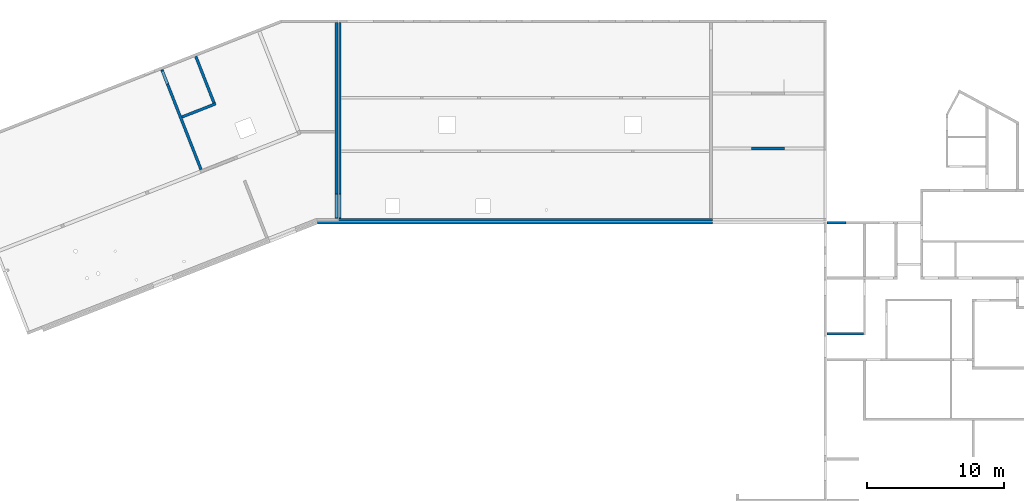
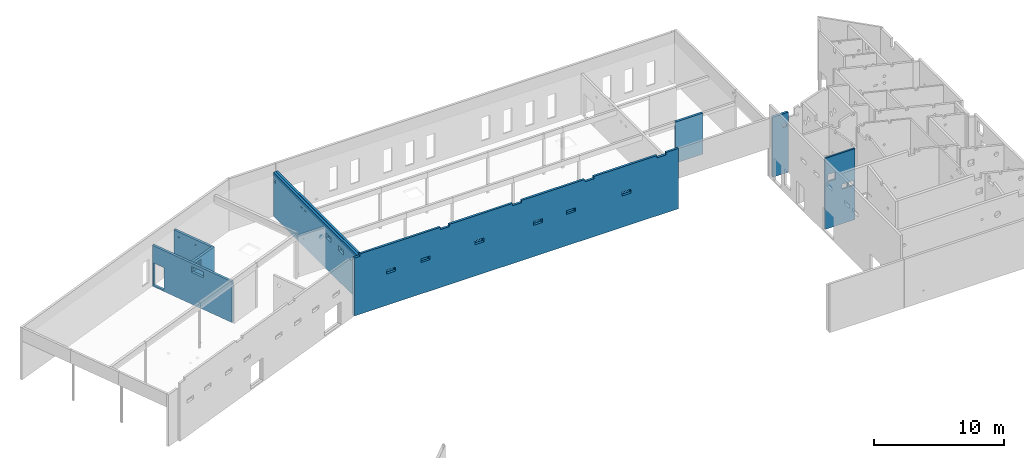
# One storey, part 4 of 13: 10 walls, 44 openings.
"""IFC2X3 building model written with IfcOpenShell, lengths in metres."""

from ifc_helpers import new_model, entity, si_unit, converted_unit, direction, frame, frame_2d, origin, origin_with_axes, place, context, subcontext, project, spatial, polyline, rectangle, outline, extrude, clip, bounded_halfspace, material, layer, layer_set, layer_usage, element, save


model = new_model("IFC2X3")

# Units and contexts
model_context = context("Model", 3, precision=1e-05, world=origin(), true_north=direction((-0.407059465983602, -0.913401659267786)))
body_context = subcontext(model_context, "Body", "Model", "MODEL_VIEW")
ifc_project = project(units=[si_unit("LENGTHUNIT", "METRE"), si_unit("AREAUNIT", "SQUARE_METRE"), si_unit("VOLUMEUNIT", "CUBIC_METRE"), si_unit("MASSUNIT", "GRAM", prefix="KILO"), converted_unit("PLANEANGLEUNIT", "DEGREE", entity("IfcPlaneAngleMeasure", 0.0174532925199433), si_unit("PLANEANGLEUNIT", "RADIAN"), dimensions=[0, 0, 0, 0, 0, 0, 0])], contexts=[model_context])

# Site, buildings, storey
site_placement = place(None, origin())
site = spatial("IfcSite", under=ifc_project, at=site_placement, Name="Site", CompositionType="ELEMENT")
building_1_placement = place(site_placement, origin())
building_1 = spatial("IfcBuilding", under=site, at=building_1_placement, Name="Site", CompositionType="COMPLEX")
building_2_placement = place(building_1_placement, origin())
building_2 = spatial("IfcBuilding", under=building_1, at=building_2_placement, Name="Bâtiments", CompositionType="ELEMENT")
storey_placement = place(building_2_placement, frame((0.0, 0.0, -0.14)))
storey = spatial("IfcBuildingStorey", under=building_2, at=storey_placement, Name="RDC", CompositionType="ELEMENT", Elevation=-0.14)

# Wall
ifc_material_1 = material(Name="Béton")
ifc_layer_1 = layer(ifc_material_1, 0.200000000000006)
ifc_layer_set_1 = layer_set([ifc_layer_1])
ifc_layer_usage_1 = layer_usage(ifc_layer_set_1, "AXIS2", "POSITIVE", -0.100000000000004)
wall_1_placement = place(storey_placement, frame((57.9607578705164, -0.0482709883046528, 0.0), z_axis=(0.0, 0.0, 1.0), x_axis=(1.0, 4.68205051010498e-10, 0.0)))
element("IfcWallStandardCase", 1, at=wall_1_placement, inside=storey, material=ifc_layer_usage_1, context=body_context, shape_type="SweptSolid", body=[
    extrude(rectangle(XDim=2.4036081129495, YDim=0.200000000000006, at=frame_2d((1.20180405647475, 0.100000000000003), x_axis=(1.0, 0.0))), origin_with_axes(), (0.0, 0.0, 1.0), 3.84),
])

# Wall, openings
ifc_material_2 = material(Name="Béton")
ifc_layer_2 = layer(ifc_material_2, 0.200000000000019)
ifc_layer_set_2 = layer_set([ifc_layer_2])
ifc_layer_usage_2 = layer_usage(ifc_layer_set_2, "AXIS2", "POSITIVE", 0.0)
wall_2_placement = place(storey_placement, frame((18.0030215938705, -1.4652256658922, 0.0), z_axis=(0.0, 0.0, 1.0), x_axis=(-0.365246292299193, 0.930910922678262, 0.0)))
wall_2 = element("IfcWallStandardCase", 2, at=wall_2_placement, inside=storey, material=ifc_layer_usage_2, context=body_context, shape_type="Clipping", body=[
    clip(extrude(rectangle(XDim=7.83953146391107, YDim=0.200000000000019, at=frame_2d((3.91976573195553, 0.100000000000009), x_axis=(1.0, 0.0))), origin_with_axes(), (0.0, 0.0, 1.0), 3.84), bounded_halfspace(frame((0.0126397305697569, 0.100000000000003, 3.64), z_axis=(0.0, 0.0, -1.0), x_axis=(1.0, -1.70086167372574e-13, 0.0)), True, origin_with_axes(), polyline([(-8.46658551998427e-16, 3.32189567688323e-16), (0.0252794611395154, -3.96838117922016e-15), (0.0252794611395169, 0.200000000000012), (1.27897692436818e-16, 0.200000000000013), (-8.46658551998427e-16, 3.32189567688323e-16)]))),
])
opening_1_placement = place(wall_2_placement, frame((7.73970249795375, 0.200000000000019, 0.14), z_axis=(0.0, -1.0, 0.0), x_axis=(0.0, 0.0, 1.0)))
element("IfcOpeningElement", 3, at=opening_1_placement, cuts=wall_2, Name="Baie de porte", ObjectType="Opening", context=body_context, shape_type="SweptSolid", body=[
    extrude(outline(polyline([(0.0, 1.03), (2.1, 1.03), (2.1, 0.0), (0.0, 0.0), (0.0, 1.03)])), origin_with_axes(), (0.0, 0.0, 1.0), 0.200000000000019),
])
opening_2_placement = place(wall_2_placement, frame((2.79763032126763, 6.82121026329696e-16, 2.99), z_axis=(2.27373675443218e-15, 1.0, 0.0), x_axis=(0.0, 0.0, 1.0)))
element("IfcOpeningElement", 4, at=opening_2_placement, cuts=wall_2, Name="CVC-002", ObjectType="Opening", context=body_context, shape_type="SweptSolid", body=[
    extrude(outline(polyline([(0.0, 1.2), (0.55, 1.2), (0.55, 0.0), (0.0, 0.0), (0.0, 1.2)])), origin_with_axes(), (0.0, 0.0, 1.0), 0.200000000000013),
])

# Wall, opening
ifc_material_3 = material(Name="Béton")
ifc_layer_3 = layer(ifc_material_3, 0.200000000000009)
ifc_layer_set_3 = layer_set([ifc_layer_3])
ifc_layer_usage_3 = layer_usage(ifc_layer_set_3, "AXIS2", "POSITIVE", -0.200000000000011)
wall_3_placement = place(storey_placement, frame((16.5429019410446, 2.25621206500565, 0.0), z_axis=(0.0, 0.0, 1.0), x_axis=(0.930910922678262, 0.365246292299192, 0.0)))
wall_3 = element("IfcWallStandardCase", 5, at=wall_3_placement, inside=storey, material=ifc_layer_usage_3, context=body_context, shape_type="SweptSolid", body=[
    extrude(rectangle(XDim=2.65145143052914, YDim=0.200000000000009, at=frame_2d((1.32572571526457, 0.100000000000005), x_axis=(1.0, 0.0))), origin_with_axes(), (0.0, 0.0, 1.0), 3.84),
])
opening_3_placement = place(wall_3_placement, frame((0.0, 0.0, 2.97), z_axis=(-3.12638803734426e-15, 1.0, 0.0), x_axis=(0.0, 0.0, 1.0)))
element("IfcOpeningElement", 6, at=opening_3_placement, cuts=wall_3, Name="CVC-001", ObjectType="Opening", context=body_context, shape_type="SweptSolid", body=[
    extrude(outline(polyline([(0.0, 0.949999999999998), (0.6, 0.949999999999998), (0.6, 0.0), (0.0, 0.0), (0.0, 0.949999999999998)])), origin_with_axes(), (0.0, 0.0, 1.0), 0.200000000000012),
])

# Wall, openings
ifc_material_4 = material(Name="Béton")
ifc_layer_4 = layer(ifc_material_4, 0.200000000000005)
ifc_layer_set_4 = layer_set([ifc_layer_4])
ifc_layer_usage_4 = layer_usage(ifc_layer_set_4, "AXIS2", "POSITIVE", 0.0)
wall_4_placement = place(storey_placement, frame((18.9381177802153, 3.41082705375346, 0.0), z_axis=(0.0, 0.0, 1.0), x_axis=(-0.365246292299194, 0.930910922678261, 0.0)))
wall_4 = element("IfcWallStandardCase", 7, at=wall_4_placement, inside=storey, material=ifc_layer_usage_4, context=body_context, shape_type="SweptSolid", body=[
    extrude(rectangle(XDim=3.64190114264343, YDim=0.200000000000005, at=frame_2d((1.82095057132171, 0.100000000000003), x_axis=(1.0, 0.0))), origin_with_axes(), (0.0, 0.0, 1.0), 3.84),
])
opening_4_placement = place(wall_4_placement, frame((3.21698916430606, 0.200000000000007, 3.29), z_axis=(0.0, -1.0, 0.0), x_axis=(0.0, 0.0, 1.0)))
element("IfcOpeningElement", 8, at=opening_4_placement, cuts=wall_4, Name="PB-RDC-2", ObjectType="Opening", context=body_context, shape_type="SweptSolid", body=[
    extrude(outline(polyline([(0.0, 0.150000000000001), (0.1, 0.150000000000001), (0.1, 0.0), (0.0, 0.0), (0.0, 0.150000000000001)])), origin_with_axes(), (0.0, 0.0, 1.0), 0.200000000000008),
])
opening_5_placement = place(wall_4_placement, frame((1.5682692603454, 0.200000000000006, 3.29), z_axis=(-1.13686837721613e-15, -1.0, 0.0), x_axis=(0.0, 0.0, 1.0)))
element("IfcOpeningElement", 9, at=opening_5_placement, cuts=wall_4, Name="PB-RDC-6", ObjectType="Opening", context=body_context, shape_type="SweptSolid", body=[
    extrude(outline(polyline([(0.0, 0.1), (0.1, 0.1), (0.1, 0.0), (0.0, 0.0), (0.0, 0.1)])), origin_with_axes(), (0.0, 0.0, 1.0), 0.200000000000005),
])

ifc_material_5 = material(Name="Béton")
ifc_layer_5 = layer(ifc_material_5, 0.200000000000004)
ifc_layer_set_5 = layer_set([ifc_layer_5])
ifc_layer_usage_5 = layer_usage(ifc_layer_set_5, "AXIS2", "POSITIVE", -0.2)
wall_5_placement = place(storey_placement, frame((27.662647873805, 9.21038988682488, 0.02), z_axis=(0.0, 0.0, 1.0), x_axis=(-2.3292249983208e-06, -0.999999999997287, 0.0)))
wall_5 = element("IfcWallStandardCase", 10, at=wall_5_placement, inside=storey, material=ifc_layer_usage_5, context=body_context, shape_type="SweptSolid", body=[
    extrude(outline(polyline([(-14.2292827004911, -1.00481250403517e-12), (-4.31393487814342e-07, -1.00481249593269e-12), (-4.65844999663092e-07, 0.199999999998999), (-14.2292827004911, 0.199999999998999), (-14.2292827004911, -1.00481250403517e-12)])), frame((14.2292827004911, 1.00481250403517e-12, 0.0), z_axis=(0.0, 0.0, 1.0), x_axis=(1.0, 0.0, 0.0)), (0.0, 0.0, 1.0), 4.12),
])
opening_6_placement = place(wall_5_placement, frame((4.58088513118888, -2.30205438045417e-15, 0.67), z_axis=(-9.09494701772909e-15, 1.0, 0.0), x_axis=(0.0, 0.0, 1.0)))
element("IfcOpeningElement", 11, at=opening_6_placement, cuts=wall_5, Name="PB-RDC-7-8", ObjectType="Opening", context=body_context, shape_type="SweptSolid", body=[
    extrude(outline(polyline([(0.0, 0.1), (0.1, 0.1), (0.1, 0.0), (0.0, 0.0), (0.0, 0.1)])), origin_with_axes(), (0.0, 0.0, 1.0), 0.200000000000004),
])
opening_7_placement = place(wall_5_placement, frame((0.02204199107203, -1.01861733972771e-15, 3.24), z_axis=(-8.50874926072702e-15, 1.0, 0.0), x_axis=(0.0, 0.0, 1.0)))
element("IfcOpeningElement", 12, at=opening_7_placement, cuts=wall_5, Name="PB-RDC-9-42", ObjectType="Opening", context=body_context, shape_type="SweptSolid", body=[
    extrude(outline(polyline([(0.0, 0.3), (0.3, 0.3), (0.3, 0.0), (0.0, 0.0), (0.0, 0.3)])), origin_with_axes(), (0.0, 0.0, 1.0), 0.200000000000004),
])
opening_8_placement = place(wall_5_placement, frame((14.2004874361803, 0.200000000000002, 0.12), z_axis=(0.0, -1.0, 0.0), x_axis=(0.0, 0.0, 1.0)))
element("IfcOpeningElement", 13, at=opening_8_placement, cuts=wall_5, Name="Baie de porte", ObjectType="Opening", context=body_context, shape_type="SweptSolid", body=[
    extrude(outline(polyline([(0.0, 1.75), (2.1, 1.75), (2.1, 0.0), (0.0, 0.0), (0.0, 1.75)])), origin_with_axes(), (0.0, 0.0, 1.0), 0.200000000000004),
])
opening_9_placement = place(wall_5_placement, frame((14.1004874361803, 8.15583711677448e-16, 3.47), z_axis=(-9.09494701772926e-15, 1.0, 0.0), x_axis=(0.0, 0.0, 1.0)))
element("IfcOpeningElement", 14, at=opening_9_placement, cuts=wall_5, Name="Percement dans mur", ObjectType="Opening", context=body_context, shape_type="SweptSolid", body=[
    extrude(outline(polyline([(0.0, 0.1), (0.1, 0.1), (0.1, 0.0), (0.0, 0.0), (0.0, 0.1)])), origin_with_axes(), (0.0, 0.0, 1.0), 0.2),
])
opening_10_placement = place(wall_5_placement, frame((10.0075514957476, -2.27760518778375e-15, 2.87), z_axis=(0.0, 1.0, 0.0), x_axis=(0.0, 0.0, 1.0)))
element("IfcOpeningElement", 15, at=opening_10_placement, cuts=wall_5, Name="Niche dans mur", ObjectType="Opening", context=body_context, shape_type="SweptSolid", body=[
    extrude(outline(polyline([(0.0, 0.75), (0.5, 0.75), (0.5, 0.0), (0.0, 0.0), (0.0, 0.75)])), origin_with_axes(), (0.0, 0.0, 1.0), 0.200000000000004),
])
opening_11_placement = place(wall_5_placement, frame((8.07758032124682, -8.90152535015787e-16, 2.89), z_axis=(0.0, 1.0, 0.0), x_axis=(0.0, 0.0, 1.0)))
element("IfcOpeningElement", 16, at=opening_11_placement, cuts=wall_5, Name="Niche dans mur", ObjectType="Opening", context=body_context, shape_type="SweptSolid", body=[
    extrude(outline(polyline([(0.0, 0.8), (0.45, 0.8), (0.45, 0.0), (0.0, 0.0), (0.0, 0.8)])), origin_with_axes(), (0.0, 0.0, 1.0), 0.200000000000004),
])
opening_12_placement = place(wall_5_placement, frame((4.14990509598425, -1.16910474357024e-15, 3.42), z_axis=(-4.54747350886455e-15, 1.0, 0.0), x_axis=(0.0, 0.0, 1.0)))
element("IfcOpeningElement", 17, at=opening_12_placement, cuts=wall_5, Name="Niche dans mur", ObjectType="Opening", context=body_context, shape_type="SweptSolid", body=[
    extrude(outline(polyline([(0.0, 0.35), (0.07, 0.35), (0.07, 0.0), (0.0, 0.0), (0.0, 0.35)])), origin_with_axes(), (0.0, 0.0, 1.0), 0.200000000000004),
])
opening_13_placement = place(wall_5_placement, frame((4.75416760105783, -1.52922639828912e-15, 3.42), z_axis=(4.54747350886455e-15, 1.0, 0.0), x_axis=(0.0, 0.0, 1.0)))
element("IfcOpeningElement", 18, at=opening_13_placement, cuts=wall_5, Name="Niche dans mur", ObjectType="Opening", context=body_context, shape_type="SweptSolid", body=[
    extrude(outline(polyline([(0.0, 0.25), (0.07, 0.25), (0.07, 0.0), (0.0, 0.0), (0.0, 0.25)])), origin_with_axes(), (0.0, 0.0, 1.0), 0.200000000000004),
])

ifc_material_6 = material(Name="Béton")
ifc_layer_6 = layer(ifc_material_6, 0.200000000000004)
ifc_layer_set_6 = layer_set([ifc_layer_6])
ifc_layer_usage_6 = layer_usage(ifc_layer_set_6, "AXIS2", "POSITIVE", -0.2)
wall_6_placement = place(storey_placement, frame((27.8826478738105, 9.2103920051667, 0.02), z_axis=(0.0, 0.0, 1.0), x_axis=(-2.3292249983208e-06, -0.999999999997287, 0.0)))
wall_6 = element("IfcWallStandardCase", 19, at=wall_6_placement, inside=storey, material=ifc_layer_usage_6, context=body_context, shape_type="Clipping", body=[
    clip(extrude(outline(polyline([(-14.2292827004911, -1.00481250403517e-12), (-4.31393487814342e-07, -1.00481249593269e-12), (-4.65844999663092e-07, 0.199999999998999), (-14.2292827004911, 0.199999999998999), (-14.2292827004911, -1.00481250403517e-12)])), frame((14.2292827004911, 1.00481250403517e-12, 0.0), z_axis=(0.0, 0.0, 1.0), x_axis=(1.0, 0.0, 0.0)), (0.0, 0.0, 1.0), 4.12), bounded_halfspace(frame((14.2288348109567, 0.0999999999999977, 0.02), z_axis=(0.0, 0.0, 1.0), x_axis=(-1.0, 9.67578660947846e-13, 0.0)), True, origin_with_axes(), polyline([(14.2292822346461, 0.2), (14.2283856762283, 0.200000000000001), (14.2283890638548, -3.21177806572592e-15), (14.2292822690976, -3.63797186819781e-15), (14.2292822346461, 0.2)]))),
])
opening_14_placement = place(wall_6_placement, frame((4.14990721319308, -2.81261472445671e-15, 3.42), z_axis=(-4.54747350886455e-15, 1.0, 0.0), x_axis=(0.0, 0.0, 1.0)))
element("IfcOpeningElement", 20, at=opening_14_placement, cuts=wall_6, Name="EL-015-17", ObjectType="Opening", context=body_context, shape_type="SweptSolid", body=[
    extrude(outline(polyline([(0.0, 0.35), (0.07, 0.35), (0.07, 0.0), (0.0, 0.0), (0.0, 0.35)])), origin_with_axes(), (0.0, 0.0, 1.0), 0.200000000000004),
])
opening_15_placement = place(wall_6_placement, frame((4.75416971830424, 5.52771370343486e-16, 3.42), z_axis=(4.54747350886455e-15, 1.0, 0.0), x_axis=(0.0, 0.0, 1.0)))
element("IfcOpeningElement", 21, at=opening_15_placement, cuts=wall_6, Name="EL-010-12", ObjectType="Opening", context=body_context, shape_type="SweptSolid", body=[
    extrude(outline(polyline([(0.0, 0.25), (0.07, 0.25), (0.07, 0.0), (0.0, 0.0), (0.0, 0.25)])), origin_with_axes(), (0.0, 0.0, 1.0), 0.200000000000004),
])
opening_16_placement = place(wall_6_placement, frame((4.68088701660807, 0.200000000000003, 0.67), z_axis=(9.09494701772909e-15, -1.0, 0.0), x_axis=(0.0, 0.0, 1.0)))
element("IfcOpeningElement", 22, at=opening_16_placement, cuts=wall_6, Name="Percement dans mur", ObjectType="Opening", context=body_context, shape_type="SweptSolid", body=[
    extrude(outline(polyline([(0.0, 0.100000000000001), (0.1, 0.100000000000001), (0.1, 0.0), (0.0, 0.0), (0.0, 0.100000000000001)])), origin_with_axes(), (0.0, 0.0, 1.0), 0.200000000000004),
])
opening_17_placement = place(wall_6_placement, frame((0.0220441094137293, -2.34387162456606e-17, 3.24), z_axis=(5.68434188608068e-16, 1.0, 0.0), x_axis=(0.0, 0.0, 1.0)))
element("IfcOpeningElement", 23, at=opening_17_placement, cuts=wall_6, Name="PB-RDC-9-42", ObjectType="Opening", context=body_context, shape_type="SweptSolid", body=[
    extrude(outline(polyline([(0.0, 0.299999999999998), (0.3, 0.299999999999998), (0.3, 0.0), (0.0, 0.0), (0.0, 0.299999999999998)])), origin_with_axes(), (0.0, 0.0, 1.0), 0.200000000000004),
])
opening_18_placement = place(wall_6_placement, frame((14.2005754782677, 0.200000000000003, 0.12), z_axis=(0.0, -1.0, 0.0), x_axis=(0.0, 0.0, 1.0)))
element("IfcOpeningElement", 24, at=opening_18_placement, cuts=wall_6, Name="Baie de porte", ObjectType="Opening", context=body_context, shape_type="SweptSolid", body=[
    extrude(outline(polyline([(0.0, 1.75), (2.1, 1.75), (2.1, 0.0), (0.0, 0.0), (0.0, 1.75)])), origin_with_axes(), (0.0, 0.0, 1.0), 0.200000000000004),
])
opening_19_placement = place(wall_6_placement, frame((14.1004939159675, -2.76098588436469e-16, 3.47), z_axis=(-9.09494701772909e-15, 1.0, 0.0), x_axis=(0.0, 0.0, 1.0)))
element("IfcOpeningElement", 25, at=opening_19_placement, cuts=wall_6, Name="PB-RDC-18-19", ObjectType="Opening", context=body_context, shape_type="SweptSolid", body=[
    extrude(outline(polyline([(0.0, 0.1), (0.1, 0.1), (0.1, 0.0), (0.0, 0.0), (0.0, 0.1)])), origin_with_axes(), (0.0, 0.0, 1.0), 0.200000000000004),
])
opening_20_placement = place(wall_6_placement, frame((10.7560592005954, 0.200000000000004, 2.87), z_axis=(9.09494701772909e-15, -1.0, 0.0), x_axis=(0.0, 0.0, 1.0)))
element("IfcOpeningElement", 26, at=opening_20_placement, cuts=wall_6, Name="CVC-051", ObjectType="Opening", context=body_context, shape_type="SweptSolid", body=[
    extrude(outline(polyline([(0.0, 0.75), (0.5, 0.75), (0.5, 0.0), (0.0, 0.0), (0.0, 0.75)])), origin_with_axes(), (0.0, 0.0, 1.0), 0.200000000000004),
])
opening_21_placement = place(wall_6_placement, frame((8.07692470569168, 9.53587903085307e-16, 2.89), z_axis=(0.0, 1.0, 0.0), x_axis=(0.0, 0.0, 1.0)))
element("IfcOpeningElement", 27, at=opening_21_placement, cuts=wall_6, Name="CVC-050", ObjectType="Opening", context=body_context, shape_type="SweptSolid", body=[
    extrude(outline(polyline([(0.0, 0.8), (0.45, 0.8), (0.45, 0.0), (0.0, 0.0), (0.0, 0.8)])), origin_with_axes(), (0.0, 0.0, 1.0), 0.200000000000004),
])

ifc_material_7 = material(Name="Mur_Maconnerie")
ifc_layer_7 = layer(ifc_material_7, 0.150000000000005)
ifc_layer_set_7 = layer_set([ifc_layer_7])
ifc_layer_usage_7 = layer_usage(ifc_layer_set_7, "AXIS2", "POSITIVE", -0.15)
wall_7_placement = place(storey_placement, frame((66.0977270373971, -13.3433473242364, 0.02), z_axis=(0.0, 0.0, 1.0), x_axis=(-0.999999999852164, -1.71951320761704e-05, 0.0)))
wall_7 = element("IfcWallStandardCase", 28, at=wall_7_placement, inside=storey, material=ifc_layer_usage_7, context=body_context, shape_type="SweptSolid", body=[
    extrude(outline(polyline([(-2.66427639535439, -0.150000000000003), (-2.57926981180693e-06, -0.150000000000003), (-7.02275428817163e-11, 1.20757187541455e-15), (-2.66427381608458, 1.81898940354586e-15), (-2.66427639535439, -0.150000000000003)])), frame((2.66427639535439, 0.150000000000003, 0.0), z_axis=(0.0, 0.0, 1.0), x_axis=(1.0, 0.0, 0.0)), (0.0, 0.0, 1.0), 6.64739507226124),
])
opening_22_placement = place(wall_7_placement, frame((1.75025335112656, -1.88141169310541e-16, 4.39), z_axis=(-8.91304807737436e-13, 1.0, 0.0), x_axis=(0.0, 0.0, 1.0)))
element("IfcOpeningElement", 29, at=opening_22_placement, cuts=wall_7, Name="CVC-096", ObjectType="Opening", context=body_context, shape_type="SweptSolid", body=[
    extrude(outline(polyline([(0.0, 0.66), (0.66, 0.66), (0.66, 0.0), (0.0, 0.0), (0.0, 0.66)])), origin_with_axes(), (0.0, 0.0, 1.0), 0.150000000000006),
])
opening_23_placement = place(wall_7_placement, frame((0.524723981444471, 0.150000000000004, 3.24), z_axis=(8.92062719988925e-13, -1.0, 0.0), x_axis=(0.0, 0.0, 1.0)))
element("IfcOpeningElement", 30, at=opening_23_placement, cuts=wall_7, Name="CVC-094", ObjectType="Opening", context=body_context, shape_type="SweptSolid", body=[
    extrude(outline(polyline([(0.0, 0.459999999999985), (0.46, 0.459999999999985), (0.46, 0.0), (0.0, 0.0), (0.0, 0.459999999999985)])), origin_with_axes(), (0.0, 0.0, 1.0), 0.150000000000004),
])
opening_24_placement = place(wall_7_placement, frame((1.15782293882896, 0.150000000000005, 3.24), z_axis=(8.92820632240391e-13, -1.0, 0.0), x_axis=(0.0, 0.0, 1.0)))
element("IfcOpeningElement", 31, at=opening_24_placement, cuts=wall_7, Name="CVC-095", ObjectType="Opening", context=body_context, shape_type="SweptSolid", body=[
    extrude(outline(polyline([(0.0, 0.46), (0.46, 0.46), (0.46, 0.0), (0.0, 0.0), (0.0, 0.46)])), origin_with_axes(), (0.0, 0.0, 1.0), 0.150000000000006),
])

# Wall, opening
ifc_material_8 = material(Name="Béton")
ifc_layer_8 = layer(ifc_material_8, 0.200000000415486)
ifc_layer_set_8 = layer_set([ifc_layer_8])
ifc_layer_usage_8 = layer_usage(ifc_layer_set_8, "AXIS2", "POSITIVE", -0.2)
wall_8_placement = place(storey_placement, frame((63.4333925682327, -5.43896696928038, 0.02), z_axis=(0.0, 0.0, 1.0), x_axis=(1.0, -6.43212719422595e-16, 0.0)))
wall_8 = element("IfcWallStandardCase", 32, at=wall_8_placement, inside=storey, material=ifc_layer_usage_8, context=body_context, shape_type="SweptSolid", body=[
    extrude(rectangle(XDim=1.41398743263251, YDim=0.200000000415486, at=frame_2d((0.706993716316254, 0.100000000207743), x_axis=(1.0, 0.0))), origin_with_axes(), (0.0, 0.0, 1.0), 5.62),
])
opening_25_placement = place(wall_8_placement, frame((1.26867913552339, 0.20000000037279, 4.33), z_axis=(1.1368683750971e-15, -1.0, 0.0), x_axis=(0.0, 0.0, 1.0)))
element("IfcOpeningElement", 33, at=opening_25_placement, cuts=wall_8, Name="CVC-128", ObjectType="Opening", context=body_context, shape_type="SweptSolid", body=[
    extrude(outline(polyline([(0.0, 0.349999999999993), (0.25, 0.349999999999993), (0.25, 0.0), (0.0, 0.0), (0.0, 0.349999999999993)])), origin_with_axes(), (0.0, 0.0, 1.0), 0.200000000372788),
])

# Wall, openings
ifc_material_9 = material(Name="Béton")
ifc_layer_9 = layer(ifc_material_9, 0.200000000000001)
ifc_layer_set_9 = layer_set([ifc_layer_9])
ifc_layer_usage_9 = layer_usage(ifc_layer_set_9, "AXIS2", "POSITIVE", -0.2)
wall_9_placement = place(storey_placement, frame((55.1124814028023, -5.01895159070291, 0.0200000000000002), z_axis=(0.0, 0.0, 1.0), x_axis=(-0.999999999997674, 2.15696744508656e-06, 0.0)))
wall_9 = element("IfcWallStandardCase", 34, at=wall_9_placement, inside=storey, material=ifc_layer_usage_9, context=body_context, shape_type="SweptSolid", body=[
    extrude(outline(polyline([(-27.229803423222, -0.200058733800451), (1.26353403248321e-10, -0.200058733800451), (1.26686895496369e-10, -5.87338004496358e-05), (-27.2298038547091, -5.87338004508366e-05), (-27.229803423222, -0.200058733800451)])), frame((27.229803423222, 0.200058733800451, 0.0), z_axis=(0.0, 0.0, 1.0), x_axis=(1.0, 0.0, 0.0)), (0.0, 0.0, 1.0), 4.07),
])
opening_26_placement = place(wall_9_placement, frame((21.4342880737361, -7.8610729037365e-17, 3.47), z_axis=(-5.33327693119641e-11, 1.0, 0.0), x_axis=(0.0, 0.0, 1.0)))
element("IfcOpeningElement", 35, at=opening_26_placement, cuts=wall_9, Name="PB-RDC-21-23", ObjectType="Opening", context=body_context, shape_type="SweptSolid", body=[
    extrude(outline(polyline([(0.0, 0.1), (0.1, 0.1), (0.1, 0.0), (0.0, 0.0), (0.0, 0.1)])), origin_with_axes(), (0.0, 0.0, 1.0), 0.200000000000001),
])
opening_27_placement = place(wall_9_placement, frame((9.12664536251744, -6.52328885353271e-16, 2.92), z_axis=(-5.33236743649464e-11, 1.0, 0.0), x_axis=(0.0, 0.0, 1.0)))
element("IfcOpeningElement", 36, at=opening_27_placement, cuts=wall_9, Name="Niche dans mur", ObjectType="Opening", context=body_context, shape_type="SweptSolid", body=[
    extrude(outline(polyline([(0.0, 0.799999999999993), (0.35, 0.799999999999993), (0.35, 0.0), (0.0, 0.0), (0.0, 0.799999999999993)])), origin_with_axes(), (0.0, 0.0, 1.0), 0.200000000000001),
])
opening_28_placement = place(wall_9_placement, frame((12.0766453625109, -2.20393148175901e-16, 2.92), z_axis=(-5.33236743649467e-11, 1.0, 0.0), x_axis=(0.0, 0.0, 1.0)))
element("IfcOpeningElement", 37, at=opening_28_placement, cuts=wall_9, Name="Niche dans mur", ObjectType="Opening", context=body_context, shape_type="SweptSolid", body=[
    extrude(outline(polyline([(0.0, 0.8), (0.35, 0.8), (0.35, 0.0), (0.0, 0.0), (0.0, 0.8)])), origin_with_axes(), (0.0, 0.0, 1.0), 0.2),
])
opening_29_placement = place(wall_9_placement, frame((17.2398984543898, -5.09731146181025e-16, 2.92), z_axis=(-5.33327693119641e-11, 1.0, 0.0), x_axis=(0.0, 0.0, 1.0)))
element("IfcOpeningElement", 38, at=opening_29_placement, cuts=wall_9, Name="Niche dans mur", ObjectType="Opening", context=body_context, shape_type="SweptSolid", body=[
    extrude(outline(polyline([(0.0, 0.799999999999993), (0.35, 0.799999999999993), (0.35, 0.0), (0.0, 0.0), (0.0, 0.799999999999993)])), origin_with_axes(), (0.0, 0.0, 1.0), 0.200000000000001),
])
opening_30_placement = place(wall_9_placement, frame((25.0594182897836, 1.33171251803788e-16, 2.92), z_axis=(-5.33327693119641e-11, 1.0, 0.0), x_axis=(0.0, 0.0, 1.0)))
element("IfcOpeningElement", 39, at=opening_30_placement, cuts=wall_9, Name="Niche dans mur", ObjectType="Opening", context=body_context, shape_type="SweptSolid", body=[
    extrude(outline(polyline([(0.0, 0.8), (0.35, 0.8), (0.35, 0.0), (0.0, 0.0), (0.0, 0.8)])), origin_with_axes(), (0.0, 0.0, 1.0), 0.200000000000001),
])
opening_31_placement = place(wall_9_placement, frame((22.0214720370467, 2.13232209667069e-17, 2.92), z_axis=(-5.33327693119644e-11, 1.0, 0.0), x_axis=(0.0, 0.0, 1.0)))
element("IfcOpeningElement", 40, at=opening_31_placement, cuts=wall_9, Name="Niche dans mur", ObjectType="Opening", context=body_context, shape_type="SweptSolid", body=[
    extrude(outline(polyline([(0.0, 0.800000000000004), (0.35, 0.800000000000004), (0.35, 0.0), (0.0, 0.0), (0.0, 0.800000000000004)])), origin_with_axes(), (0.0, 0.0, 1.0), 0.2),
])
opening_32_placement = place(wall_9_placement, frame((4.20208627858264, -4.18658163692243e-16, 2.92), z_axis=(-5.33236743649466e-11, 1.0, 0.0), x_axis=(0.0, 0.0, 1.0)))
element("IfcOpeningElement", 41, at=opening_32_placement, cuts=wall_9, Name="Niche dans mur", ObjectType="Opening", context=body_context, shape_type="SweptSolid", body=[
    extrude(outline(polyline([(0.0, 0.799999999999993), (0.35, 0.799999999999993), (0.35, 0.0), (0.0, 0.0), (0.0, 0.799999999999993)])), origin_with_axes(), (0.0, 0.0, 1.0), 0.2),
])

ifc_material_10 = material(Name="Béton")
ifc_layer_10 = layer(ifc_material_10, 0.19999999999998)
ifc_layer_set_10 = layer_set([ifc_layer_10])
ifc_layer_usage_10 = layer_usage(ifc_layer_set_10, "AXIS2", "POSITIVE", -0.19999999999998)
wall_10_placement = place(storey_placement, frame((26.3858868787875, -5.43894658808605, -0.02)))
wall_10 = element("IfcWallStandardCase", 42, at=wall_10_placement, inside=storey, material=ifc_layer_usage_10, context=body_context, shape_type="Clipping", body=[
    clip(clip(clip(extrude(outline(polyline([(16.6874691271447, 0.0), (18.8374691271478, 0.0), (28.7644956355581, 0.0), (28.7644956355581, 0.19999999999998), (0.0, 0.19999999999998), (0.0378315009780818, 0.0), (16.6874691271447, 0.0)])), frame((-0.0378315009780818, 0.0, 0.0), z_axis=(0.0, 0.0, 1.0), x_axis=(1.0, 0.0, 0.0)), (0.0, 0.0, 1.0), 5.66), bounded_halfspace(frame((-0.0183585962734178, 0.09999999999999, 0.02), z_axis=(0.0, 0.0, 1.0), x_axis=(0.185861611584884, -0.982575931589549, 0.0)), True, origin_with_axes(), polyline([(-0.0378315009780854, 0.19999999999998), (0.0, 0.0), (0.0012782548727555, 0.0), (-0.0368811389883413, 0.19999999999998), (-0.0378315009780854, 0.19999999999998)]))), bounded_halfspace(frame((14.3594313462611, 0.09999999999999, 0.02), z_axis=(0.0, 0.0, 1.0), x_axis=(1.0, 0.0, 0.0)), True, origin_with_axes(), polyline([(0.0112782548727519, 0.0), (28.72666413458, 0.0), (28.72666413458, 0.19999999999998), (-0.0268811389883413, 0.19999999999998), (0.0112782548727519, 0.0)]))), bounded_halfspace(frame((-0.0128014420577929, 0.09999999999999, 5.64), z_axis=(0.0, 0.0, -1.0), x_axis=(-0.187416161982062, 0.9822806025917, 0.0)), True, origin_with_axes(), polyline([(0.0112782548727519, 0.0), (-0.0268811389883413, 0.19999999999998), (-0.0368811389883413, 0.19999999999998), (0.0012782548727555, 0.0), (0.0112782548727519, 0.0)]))),
])
opening_33_placement = place(wall_10_placement, frame((24.5242052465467, 0.19999999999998, 2.96), z_axis=(0.0, -1.0, 0.0), x_axis=(0.0, 0.0, 1.0)))
element("IfcOpeningElement", 43, at=opening_33_placement, cuts=wall_10, Name="CVC-058", ObjectType="Opening", context=body_context, shape_type="SweptSolid", body=[
    extrude(outline(polyline([(0.0, 0.8), (0.35, 0.8), (0.35, 0.0), (0.0, 0.0), (0.0, 0.8)])), origin_with_axes(), (0.0, 0.0, 1.0), 0.19999999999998),
])
opening_34_placement = place(wall_10_placement, frame((19.5996376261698, 0.19999999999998, 2.96), z_axis=(0.0, -1.0, 0.0), x_axis=(0.0, 0.0, 1.0)))
element("IfcOpeningElement", 44, at=opening_34_placement, cuts=wall_10, Name="CVC-059", ObjectType="Opening", context=body_context, shape_type="SweptSolid", body=[
    extrude(outline(polyline([(0.0, 0.8), (0.35, 0.8), (0.35, 0.0), (0.0, 0.0), (0.0, 0.8)])), origin_with_axes(), (0.0, 0.0, 1.0), 0.19999999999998),
])
opening_35_placement = place(wall_10_placement, frame((2.86686469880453, 0.0, 2.96), z_axis=(0.0, 1.0, 0.0), x_axis=(0.0, 0.0, 1.0)))
element("IfcOpeningElement", 45, at=opening_35_placement, cuts=wall_10, Name="CVC-053", ObjectType="Opening", context=body_context, shape_type="SweptSolid", body=[
    extrude(outline(polyline([(0.0, 0.8), (0.35, 0.8), (0.35, 0.0), (0.0, 0.0), (0.0, 0.8)])), origin_with_axes(), (0.0, 0.0, 1.0), 0.19999999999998),
])
opening_36_placement = place(wall_10_placement, frame((6.70481095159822, 0.19999999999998, 2.96), z_axis=(0.0, -1.0, 0.0), x_axis=(0.0, 0.0, 1.0)))
element("IfcOpeningElement", 46, at=opening_36_placement, cuts=wall_10, Name="CVC-052", ObjectType="Opening", context=body_context, shape_type="SweptSolid", body=[
    extrude(outline(polyline([(0.0, 0.8), (0.35, 0.8), (0.35, 0.0), (0.0, 0.0), (0.0, 0.8)])), origin_with_axes(), (0.0, 0.0, 1.0), 0.19999999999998),
])
opening_37_placement = place(wall_10_placement, frame((11.4863845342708, 0.19999999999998, 2.96), z_axis=(0.0, -1.0, 0.0), x_axis=(0.0, 0.0, 1.0)))
element("IfcOpeningElement", 47, at=opening_37_placement, cuts=wall_10, Name="CVC-061", ObjectType="Opening", context=body_context, shape_type="SweptSolid", body=[
    extrude(outline(polyline([(0.0, 0.8), (0.35, 0.8), (0.35, 0.0), (0.0, 0.0), (0.0, 0.8)])), origin_with_axes(), (0.0, 0.0, 1.0), 0.19999999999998),
])
opening_38_placement = place(wall_10_placement, frame((16.6496376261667, 0.19999999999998, 2.96), z_axis=(0.0, -1.0, 0.0), x_axis=(0.0, 0.0, 1.0)))
element("IfcOpeningElement", 48, at=opening_38_placement, cuts=wall_10, Name="CVC-060", ObjectType="Opening", context=body_context, shape_type="SweptSolid", body=[
    extrude(outline(polyline([(0.0, 0.8), (0.35, 0.8), (0.35, 0.0), (0.0, 0.0), (0.0, 0.8)])), origin_with_axes(), (0.0, 0.0, 1.0), 0.19999999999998),
])
opening_39_placement = place(wall_10_placement, frame((27.6190840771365, 0.19999999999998, 5.45), z_axis=(0.0, -1.0, 0.0), x_axis=(0.0, 0.0, 1.0)))
element("IfcOpeningElement", 49, at=opening_39_placement, cuts=wall_10, Name="Percement dans mur", ObjectType="Opening", context=body_context, shape_type="SweptSolid", body=[
    extrude(outline(polyline([(0.0, 0.8), (0.21, 0.8), (0.21, 0.0), (0.0, 0.0), (0.0, 0.8)])), origin_with_axes(), (0.0, 0.0, 1.0), 0.19999999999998),
])
opening_40_placement = place(wall_10_placement, frame((21.2168675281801, 0.19999999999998, 5.45), z_axis=(0.0, -1.0, 0.0), x_axis=(0.0, 0.0, 1.0)))
element("IfcOpeningElement", 50, at=opening_40_placement, cuts=wall_10, Name="Percement dans mur", ObjectType="Opening", context=body_context, shape_type="SweptSolid", body=[
    extrude(outline(polyline([(0.0, 0.8), (0.21, 0.8), (0.21, 0.0), (0.0, 0.0), (0.0, 0.8)])), origin_with_axes(), (0.0, 0.0, 1.0), 0.19999999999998),
])
opening_41_placement = place(wall_10_placement, frame((14.8213658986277, 0.19999999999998, 5.45), z_axis=(0.0, -1.0, 0.0), x_axis=(0.0, 0.0, 1.0)))
element("IfcOpeningElement", 51, at=opening_41_placement, cuts=wall_10, Name="Percement dans mur", ObjectType="Opening", context=body_context, shape_type="SweptSolid", body=[
    extrude(outline(polyline([(0.0, 0.8), (0.21, 0.8), (0.21, 0.0), (0.0, 0.0), (0.0, 0.8)])), origin_with_axes(), (0.0, 0.0, 1.0), 0.19999999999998),
])
opening_42_placement = place(wall_10_placement, frame((8.42243017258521, 0.19999999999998, 5.45), z_axis=(0.0, -1.0, 0.0), x_axis=(0.0, 0.0, 1.0)))
element("IfcOpeningElement", 52, at=opening_42_placement, cuts=wall_10, Name="Percement dans mur", ObjectType="Opening", context=body_context, shape_type="SweptSolid", body=[
    extrude(outline(polyline([(0.0, 0.8), (0.21, 0.8), (0.21, 0.0), (0.0, 0.0), (0.0, 0.8)])), origin_with_axes(), (0.0, 0.0, 1.0), 0.19999999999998),
])
opening_43_placement = place(wall_10_placement, frame((3.66686469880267, 0.199998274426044, 2.96), z_axis=(-2.15691412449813e-06, -0.999999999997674, 0.0), x_axis=(0.0, 0.0, 1.0)))
element("IfcOpeningElement", 53, at=opening_43_placement, cuts=wall_10, Name="Niche dans mur", ObjectType="Opening", context=body_context, shape_type="SweptSolid", body=[
    extrude(outline(polyline([(0.0, 0.8), (0.35, 0.8), (0.35, 0.0), (0.0, 0.0), (0.0, 0.8)])), origin_with_axes(), (0.0, 0.0, 1.0), 0.200000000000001),
])
opening_44_placement = place(wall_10_placement, frame((0.500268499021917, 0.19999999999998, 5.45), z_axis=(0.0, 0.0, 1.0), x_axis=(-1.0, 0.0, 0.0)))
element("IfcOpeningElement", 54, at=opening_44_placement, cuts=wall_10, Name="Percement dans mur", ObjectType="Opening", context=body_context, shape_type="SweptSolid", body=[
    extrude(outline(polyline([(0.0, 0.0), (0.538099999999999, 0.0), (0.538099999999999, 0.10548902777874), (0.520222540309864, 0.19999999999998), (0.0, 0.19999999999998), (0.0, 0.0)])), origin_with_axes(), (0.0, 0.0, 1.0), 0.21),
])

save(model, "model.ifc")
